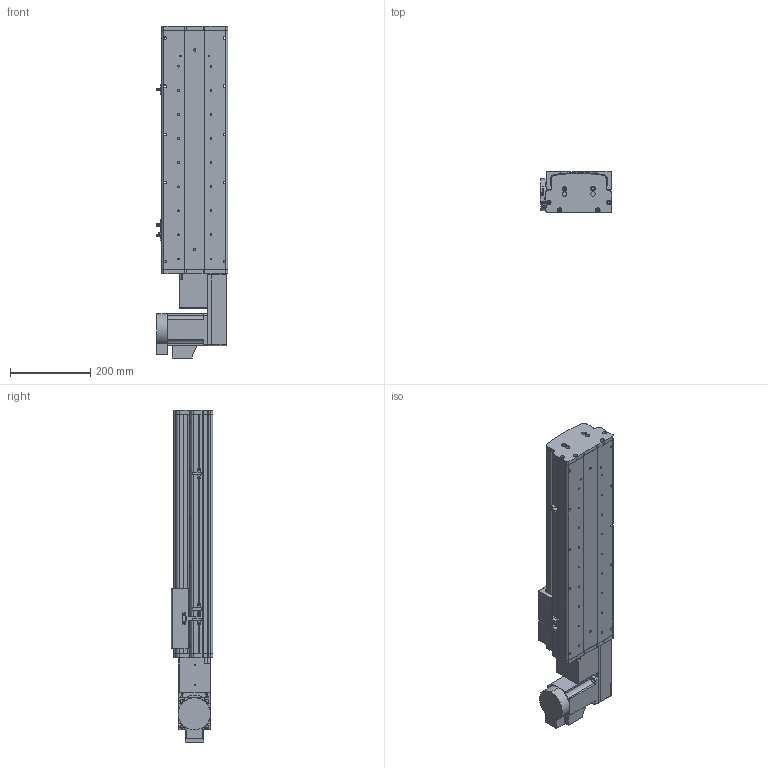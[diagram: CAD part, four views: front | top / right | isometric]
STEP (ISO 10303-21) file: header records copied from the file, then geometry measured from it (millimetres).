
FILE_DESCRIPTION (( 'STEP AP214' ), '1' );
FILE_NAME ('KSD165B-S350-MRB-CM .STEP', '2017-10-16T08:41:22', ( '微软用户' ), ( '微软中国' ), 'SwSTEP 2.0', 'SolidWorks 2014', '' );
FILE_SCHEMA (( 'AUTOMOTIVE_DESIGN' ));
Length unit declared in the file: millimetre
Products named in the file (17): KSD165模组同步带-防撞垫1; KSD165耀郪-ヶ傷啣1-肮祭湍; KSD165模组-后端板1-同步带; KSD165模组-同步带滑动座-最新版; KSD165B-S350-MRB-CM ; HTPA26S5M250-A-H8 400W萇儂蚚 ; HTPA26S5M250-A-H8 750W萇儂蚚; 130宽模组马达安装板连板左右折同步带; 130宽模组保护罩上下左右折-同步带; KSD165模组-同步带防尘盖1-350行程-最新版; KSD165模组同步带底板-350行程-最新; 拸秶雄ん750W侜督萇儂; 165宽马达安装板同步带右; U倰嫖萇假蚾璃; U倰嫖萇EEㄜSX672; 覜茼え68遵圉猾敕; KSD165模组-同步带-防撞垫2
Assembly tree (20 placements, depth 2):
  KSD165B-S350-MRB-CM 
    KSD165模组-同步带滑动座-最新版
    KSD165模组-后端板1-同步带
    KSD165耀郪-ヶ傷啣1-肮祭湍
    KSD165模组同步带-防撞垫1
    KSD165模组-同步带-防撞垫2
    覜茼え68遵圉猾敕
    U倰嫖萇EEㄜSX672  x3
    U倰嫖萇假蚾璃  x3
    165宽马达安装板同步带右
    拸秶雄ん750W侜督萇儂
    KSD165模组同步带底板-350行程-最新
    KSD165模组-同步带防尘盖1-350行程-最新版
    130宽模组保护罩上下左右折-同步带
    130宽模组马达安装板连板左右折同步带
    HTPA26S5M250-A-H8 750W萇儂蚚
    HTPA26S5M250-A-H8 400W萇儂蚚 
Bounding box: 178.7 x 104 x 827.5 mm (x, y, z)
Volume: 4986606.5 mm3; surface area: 1148528.5 mm2
Topology: 21 solids, 21 shells, 1871 faces, 5268 edges, 3436 vertices
Faces by surface type: cylinder 1183, plane 576, cone 112
Entity records: 59924 total; most frequent: CARTESIAN_POINT 12268, DIRECTION 9920, ORIENTED_EDGE 9196, EDGE_CURVE 4598, AXIS2_PLACEMENT_3D 3878, VERTEX_POINT 3028, CIRCLE 2204, VECTOR 2164
